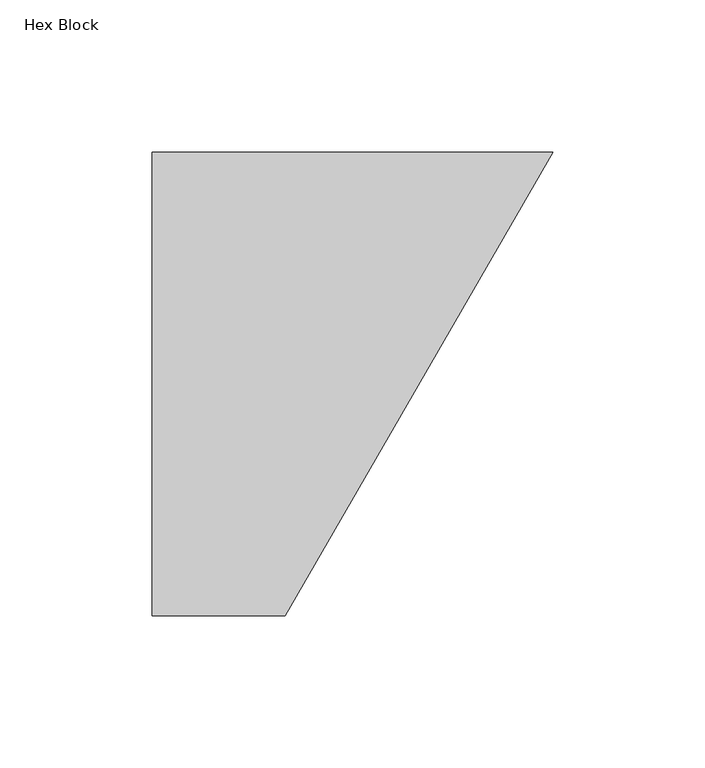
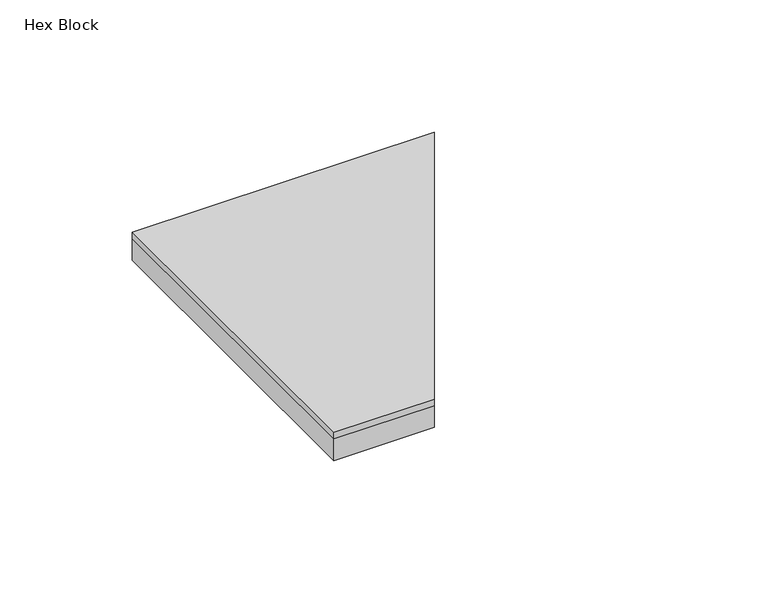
"""IFC4 building model written with IfcOpenShell, lengths in millimetres: proxy geometry, FilzFelt_Hex_Block : Hex Block."""

import ifcopenshell
import ifcopenshell.guid

model = None  # the IFC model being written
_history = None  # IfcOwnerHistory: only IFC2X3 demands one
_inside = {}  # id of a spatial element -> (the spatial element, [elements in it])
_under = {}  # id of a project, library or spatial element -> (it, [spatial elements below it])
_declared = {}  # id of a project -> (the project, [libraries it declares])
_typed = {}  # id of a type object -> (the type object, [elements of that type])
_made_of = {}  # id of a material, layer set ... -> (it, [elements and type objects made of it])


def new_model(schema):
    """Start an empty IFC model of exactly this schema.

    Asked for "IFC4X3", IfcOpenShell would pick the latest addendum, in which some entities
    have other attributes; the version numbers below select the first issue.
    IFC2X3 requires an IfcOwnerHistory on every rooted entity: one is made here for all.
    """
    global model, _history
    if schema == "IFC4X3":
        model = ifcopenshell.file(schema_version=(4, 3, 0, 0))
    else:
        model = ifcopenshell.file(schema=schema)
    _inside.clear()
    _under.clear()
    _declared.clear()
    _typed.clear()
    _made_of.clear()
    _history = None
    if model.schema == "IFC2X3":
        org = make("IfcOrganization", Name="unknown")
        user = make(
            "IfcPersonAndOrganization",
            ThePerson=make("IfcPerson", FamilyName="unknown"),
            TheOrganization=org,
        )
        app = make(
            "IfcApplication",
            ApplicationDeveloper=org,
            Version="unknown",
            ApplicationFullName="unknown",
            ApplicationIdentifier="unknown",
        )
        _history = make(
            "IfcOwnerHistory",
            OwningUser=user,
            OwningApplication=app,
            ChangeAction="ADDED",
            CreationDate=0,
        )
    return model


def make(cls, **values):
    """One entity of the class cls with the attributes given. An attribute that is None is left unset."""
    return model.create_entity(
        cls, **{name: value for name, value in values.items() if value is not None}
    )


def rooted(cls, **values):
    """An entity with a GlobalId (a new one), such as an element, a storey or a relation."""
    return make(cls, GlobalId=ifcopenshell.guid.new(), OwnerHistory=_history, **values)


def si_unit(unit_type, name, prefix=None):
    """IfcSIUnit, for example si_unit("LENGTHUNIT", "METRE", prefix="MILLI")."""
    return make("IfcSIUnit", UnitType=unit_type, Prefix=prefix, Name=name)


def assignment(units):
    """IfcUnitAssignment: the units of a project."""
    return None if units is None else make("IfcUnitAssignment", Units=units)


def point(xyz):
    """IfcCartesianPoint."""
    return None if xyz is None else make("IfcCartesianPoint", Coordinates=xyz)


def direction(xyz):
    """IfcDirection."""
    return None if xyz is None else make("IfcDirection", DirectionRatios=xyz)


def frame(location, z_axis=None, x_axis=None):
    """IfcAxis2Placement3D, a coordinate frame: its origin and axes. An axis left out is left unset."""
    return make(
        "IfcAxis2Placement3D",
        Location=point(location),
        Axis=direction(z_axis),
        RefDirection=direction(x_axis),
    )


def origin():
    """The frame at (0, 0, 0) with its axes left unset."""
    return frame((0.0, 0.0, 0.0))


def origin_with_axes():
    """The frame at (0, 0, 0) with the z axis (0, 0, 1) and the x axis (1, 0, 0) written out."""
    return frame((0.0, 0.0, 0.0), z_axis=(0.0, 0.0, 1.0), x_axis=(1.0, 0.0, 0.0))


def place(relative_to, where):
    """IfcLocalPlacement: puts the frame where relative to a parent placement (None: the world)."""
    return make(
        "IfcLocalPlacement", PlacementRelTo=relative_to, RelativePlacement=where
    )


def context(
    kind, dimensions, precision=None, world=None, true_north=None, identifier=None
):
    """IfcGeometricRepresentationContext, for example the 3D "Model" context."""
    return make(
        "IfcGeometricRepresentationContext",
        ContextIdentifier=identifier,
        ContextType=kind,
        CoordinateSpaceDimension=dimensions,
        Precision=precision,
        WorldCoordinateSystem=world,
        TrueNorth=true_north,
    )


def project(units=None, contexts=None):
    """IfcProject with its units and contexts."""
    return rooted(
        "IfcProject",
        Name="project",
        RepresentationContexts=contexts,
        UnitsInContext=assignment(units),
    )


def spatial(cls, under=None, at=None, **own):
    """A site, building, storey or space (cls), placed at a placement, below another one or the project."""
    s = rooted(cls, ObjectPlacement=at, **own)
    if under is not None:
        _under.setdefault(under.id(), (under, []))[1].append(s)
    return s


def polyline(points):
    """IfcPolyline through the points."""
    return make("IfcPolyline", Points=[point(p) for p in points])


def outline(outer, holes=None, kind="AREA"):
    """IfcArbitraryClosedProfileDef: a profile drawn as a closed curve; with holes, ...WithVoids."""
    if holes is None:
        return make("IfcArbitraryClosedProfileDef", ProfileType=kind, OuterCurve=outer)
    return make(
        "IfcArbitraryProfileDefWithVoids",
        ProfileType=kind,
        OuterCurve=outer,
        InnerCurves=holes,
    )


def extrude(swept, where, along, depth):
    """IfcExtrudedAreaSolid: the profile swept, set in the frame where, extruded along a direction by depth."""
    return make(
        "IfcExtrudedAreaSolid",
        SweptArea=swept,
        Position=where,
        ExtrudedDirection=direction(along),
        Depth=depth,
    )


def shape(context_of_items, identifier, shape_type, items):
    """IfcShapeRepresentation: the items that make up one representation, for example the "Body"."""
    return make(
        "IfcShapeRepresentation",
        ContextOfItems=context_of_items,
        RepresentationIdentifier=identifier,
        RepresentationType=shape_type,
        Items=items,
    )


def source(mapping_origin, context_of_items, identifier, shape_type, items):
    """IfcRepresentationMap: a shape defined once, which mapped items show again and again."""
    return make(
        "IfcRepresentationMap",
        MappingOrigin=mapping_origin,
        MappedRepresentation=shape(context_of_items, identifier, shape_type, items),
    )


def transform(
    local_origin,
    x_axis=None,
    y_axis=None,
    z_axis=None,
    scale=None,
    scale2=None,
    scale3=None,
    uniform=True,
):
    """IfcCartesianTransformationOperator3D, or its non-uniform kind. x_axis, y_axis, z_axis: its Axis1, 2, 3."""
    if uniform:
        return make(
            "IfcCartesianTransformationOperator3D",
            Axis1=direction(x_axis),
            Axis2=direction(y_axis),
            LocalOrigin=point(local_origin),
            Scale=scale,
            Axis3=direction(z_axis),
        )
    return make(
        "IfcCartesianTransformationOperator3DnonUniform",
        Axis1=direction(x_axis),
        Axis2=direction(y_axis),
        LocalOrigin=point(local_origin),
        Scale=scale,
        Axis3=direction(z_axis),
        Scale2=scale2,
        Scale3=scale3,
    )


def mapped(mapping_source, mapping_target):
    """IfcMappedItem: shows the shape of a source again, moved by a transform."""
    return make(
        "IfcMappedItem", MappingSource=mapping_source, MappingTarget=mapping_target
    )


def made_of(thing, what):
    """Note that an element or type object is made of a material, layer set ...; save() writes the relation."""
    if what is not None:
        _made_of.setdefault(what.id(), (what, []))[1].append(thing)
    return thing


def element(
    cls,
    number,
    at=None,
    inside=None,
    cuts=None,
    type_object=None,
    material=None,
    context=None,
    identifier="Body",
    shape_type=None,
    held_by="IfcProductDefinitionShape",
    body=None,
    shapes=None,
    **own,
):
    """One element of the class cls, such as IfcWall. Its Tag is "e" and its number.

    at: its placement. inside: the storey or other place that contains it. cuts: it is an
    opening in that element (IfcRelVoidsElement). A single representation is given by context,
    identifier, shape_type and body (its items); several are given by shapes. held_by: the class
    of the entity that holds the representations. save() writes the other relations.
    """
    e = rooted(cls, Tag="e%d" % number, ObjectPlacement=at, **own)
    if body is not None:
        shapes = [shape(context, identifier, shape_type, body)]
    if shapes is not None:
        e.Representation = make(held_by, Representations=shapes)
    if inside is not None:
        _inside.setdefault(inside.id(), (inside, []))[1].append(e)
    if cuts is not None:
        rooted(
            "IfcRelVoidsElement", RelatingBuildingElement=cuts, RelatedOpeningElement=e
        )
    if type_object is not None:
        _typed.setdefault(type_object.id(), (type_object, []))[1].append(e)
    return made_of(e, material)


def aggregate(whole, parts):
    """IfcRelAggregates: a whole, such as a stair, and the parts it consists of."""
    return rooted("IfcRelAggregates", RelatingObject=whole, RelatedObjects=parts)


def save(model, path):
    """Write the relations noted so far, then the file.

    IfcRelAggregates (storeys below a building ...), IfcRelContainedInSpatialStructure (elements
    in a storey), IfcRelDefinesByType, IfcRelAssociatesMaterial and IfcRelDeclares: one each for
    every whole, place, type object, material and project.
    """
    for whole, parts in _under.values():
        aggregate(whole, parts)
    for where, things in _inside.values():
        rooted(
            "IfcRelContainedInSpatialStructure",
            RelatedElements=things,
            RelatingStructure=where,
        )
    for kind, things in _typed.values():
        rooted("IfcRelDefinesByType", RelatedObjects=things, RelatingType=kind)
    for what, things in _made_of.values():
        rooted("IfcRelAssociatesMaterial", RelatedObjects=things, RelatingMaterial=what)
    for by, libraries in _declared.values():
        rooted("IfcRelDeclares", RelatingContext=by, RelatedDefinitions=libraries)
    model.write(path)


def hex_block_60d278a7(model_context):
    return source(origin(), model_context, "Body", "SweptSolid", [
        extrude(outline(polyline([(175.976362, 0.0), (87.988181, -152.4), (44.2024582, -152.4), (44.2024582, 0.0), (175.976362, 0.0)])), frame((0.0, 0.0, 10.0210937), z_axis=(0.0, 0.0, 1.0), x_axis=(1.0, 0.0, 0.0)), (0.0, 0.0, 1.0), 2.9765625),
        extrude(outline(polyline([(175.976362, 0.0), (87.988181, -152.4), (44.2024582, -152.4), (44.2024582, 0.0), (175.976362, 0.0)])), origin_with_axes(), (0.0, 0.0, 1.0), 10.0210938),
    ])


if __name__ == "__main__":
    model = new_model("IFC4")
    model_context = context("Model", 3, world=origin())
    ifc_project = project(units=[si_unit("LENGTHUNIT", "METRE", prefix="MILLI")], contexts=[model_context])
    site = spatial("IfcSite", under=ifc_project)
    building = spatial("IfcBuilding", under=site)
    placement = place(None, origin())
    hex_block_shape = hex_block_60d278a7(model_context)
    element("IfcBuildingElementProxy", 1, Name="FilzFelt_Hex_Block : Hex Block", ObjectType="FilzFelt_Hex_Block : Hex Block", at=placement, inside=building, context=model_context, shape_type="MappedRepresentation", body=[
        mapped(hex_block_shape, transform((0.0, 0.0, 0.0), x_axis=(1.0, 0.0, 0.0), y_axis=(0.0, 1.0, 0.0), z_axis=(0.0, 0.0, 1.0))),
    ])
    save(model, "model.ifc")
